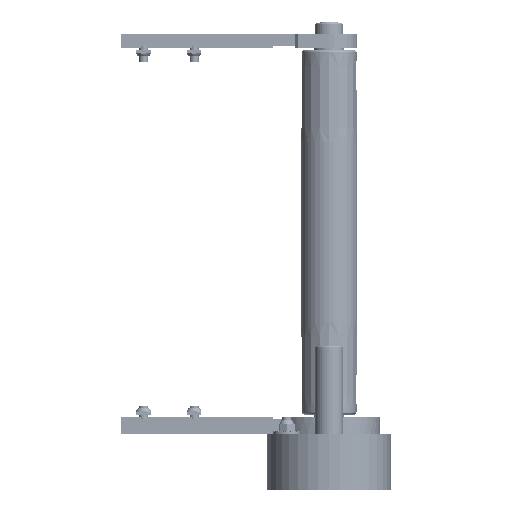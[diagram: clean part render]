
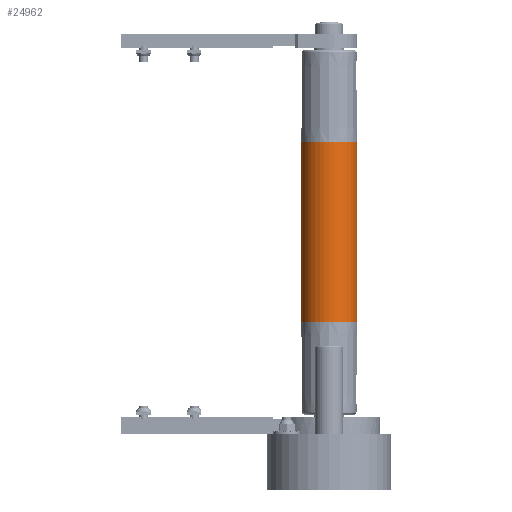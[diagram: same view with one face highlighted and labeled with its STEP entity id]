
A CAD part, front view. The second image highlights one B-rep face of the part: STEP entity #24962.
In plain terms, the highlighted cylindrical face has radius 25 mm (diameter 50 mm), a partial arc.
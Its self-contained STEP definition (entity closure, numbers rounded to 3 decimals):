
#301 = CIRCLE ( 'NONE', #10476, 25. ) ;
#1402 = VERTEX_POINT ( 'NONE', #18011 ) ;
#1907 = AXIS2_PLACEMENT_3D ( 'NONE', #30831, #5103, #54739 ) ;
#3128 = DIRECTION ( 'NONE',  ( 0., -1., 0. ) ) ;
#5103 = DIRECTION ( 'NONE',  ( -1., 0., 0. ) ) ;
#6083 = DIRECTION ( 'NONE',  ( -1., 0., 0. ) ) ;
#7539 = CARTESIAN_POINT ( 'NONE',  ( 80., 0., -25. ) ) ;
#8911 = EDGE_CURVE ( 'NONE', #43545, #50681, #77804, .T. ) ;
#9261 = ORIENTED_EDGE ( 'NONE', *, *, #26756, .T. ) ;
#10476 = AXIS2_PLACEMENT_3D ( 'NONE', #51990, #71998, #3128 ) ;
#13316 = AXIS2_PLACEMENT_3D ( 'NONE', #58254, #59068, #65419 ) ;
#14799 = VECTOR ( 'NONE', #23665, 1000. ) ;
#17195 = CARTESIAN_POINT ( 'NONE',  ( 160., 0., 0. ) ) ;
#17638 = CARTESIAN_POINT ( 'NONE',  ( -80., 0., -25. ) ) ;
#18011 = CARTESIAN_POINT ( 'NONE',  ( 80., -25., 0. ) ) ;
#21023 = CARTESIAN_POINT ( 'NONE',  ( -80., -25., 0. ) ) ;
#23665 = DIRECTION ( 'NONE',  ( -1., 0., 0. ) ) ;
#24028 = ORIENTED_EDGE ( 'NONE', *, *, #70607, .T. ) ;
#24962 = ADVANCED_FACE ( 'NONE', ( #40974 ), #40035, .T. ) ;
#26756 = EDGE_CURVE ( 'NONE', #73691, #1402, #301, .T. ) ;
#28444 = CARTESIAN_POINT ( 'NONE',  ( 160., 0., -25. ) ) ;
#28983 = CARTESIAN_POINT ( 'NONE',  ( 80., 0., 25. ) ) ;
#28989 = DIRECTION ( 'NONE',  ( -1., 0., 0. ) ) ;
#30831 = CARTESIAN_POINT ( 'NONE',  ( -80., 0., 0. ) ) ;
#31554 = CARTESIAN_POINT ( 'NONE',  ( -80., 0., 0. ) ) ;
#32984 = LINE ( 'NONE', #28444, #80268 ) ;
#33943 = ORIENTED_EDGE ( 'NONE', *, *, #79677, .F. ) ;
#40035 = CYLINDRICAL_SURFACE ( 'NONE', #50005, 25. ) ;
#40411 = ORIENTED_EDGE ( 'NONE', *, *, #51736, .F. ) ;
#40974 = FACE_OUTER_BOUND ( 'NONE', #59406, .T. ) ;
#41758 = DIRECTION ( 'NONE',  ( 0., 0., 1. ) ) ;
#42020 = CIRCLE ( 'NONE', #13316, 25. ) ;
#43545 = VERTEX_POINT ( 'NONE', #17638 ) ;
#46817 = CARTESIAN_POINT ( 'NONE',  ( -80., 0., 25. ) ) ;
#50005 = AXIS2_PLACEMENT_3D ( 'NONE', #17195, #79496, #41758 ) ;
#50303 = LINE ( 'NONE', #65812, #14799 ) ;
#50681 = VERTEX_POINT ( 'NONE', #21023 ) ;
#51736 = EDGE_CURVE ( 'NONE', #73691, #43545, #32984, .T. ) ;
#51990 = CARTESIAN_POINT ( 'NONE',  ( 80., 0., 0. ) ) ;
#54739 = DIRECTION ( 'NONE',  ( 0., -1., 0. ) ) ;
#58254 = CARTESIAN_POINT ( 'NONE',  ( 80., 0., 0. ) ) ;
#58270 = VERTEX_POINT ( 'NONE', #28983 ) ;
#59068 = DIRECTION ( 'NONE',  ( -1., 0., 0. ) ) ;
#59406 = EDGE_LOOP ( 'NONE', ( #40411, #9261, #24028, #59537, #33943, #75819 ) ) ;
#59537 = ORIENTED_EDGE ( 'NONE', *, *, #75452, .T. ) ;
#65419 = DIRECTION ( 'NONE',  ( 0., -1., 0. ) ) ;
#65812 = CARTESIAN_POINT ( 'NONE',  ( 160., 0., 25. ) ) ;
#67517 = CIRCLE ( 'NONE', #74127, 25. ) ;
#67552 = VERTEX_POINT ( 'NONE', #46817 ) ;
#70607 = EDGE_CURVE ( 'NONE', #1402, #58270, #42020, .T. ) ;
#71998 = DIRECTION ( 'NONE',  ( -1., 0., 0. ) ) ;
#73691 = VERTEX_POINT ( 'NONE', #7539 ) ;
#74127 = AXIS2_PLACEMENT_3D ( 'NONE', #31554, #6083, #75549 ) ;
#75452 = EDGE_CURVE ( 'NONE', #58270, #67552, #50303, .T. ) ;
#75549 = DIRECTION ( 'NONE',  ( 0., -1., 0. ) ) ;
#75819 = ORIENTED_EDGE ( 'NONE', *, *, #8911, .F. ) ;
#77804 = CIRCLE ( 'NONE', #1907, 25. ) ;
#79496 = DIRECTION ( 'NONE',  ( -1., 0., 0. ) ) ;
#79677 = EDGE_CURVE ( 'NONE', #50681, #67552, #67517, .T. ) ;
#80268 = VECTOR ( 'NONE', #28989, 1000. ) ;
